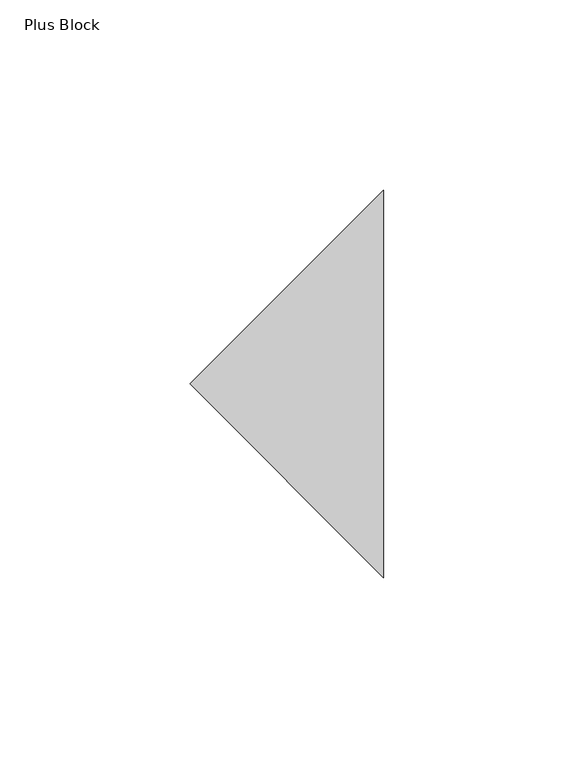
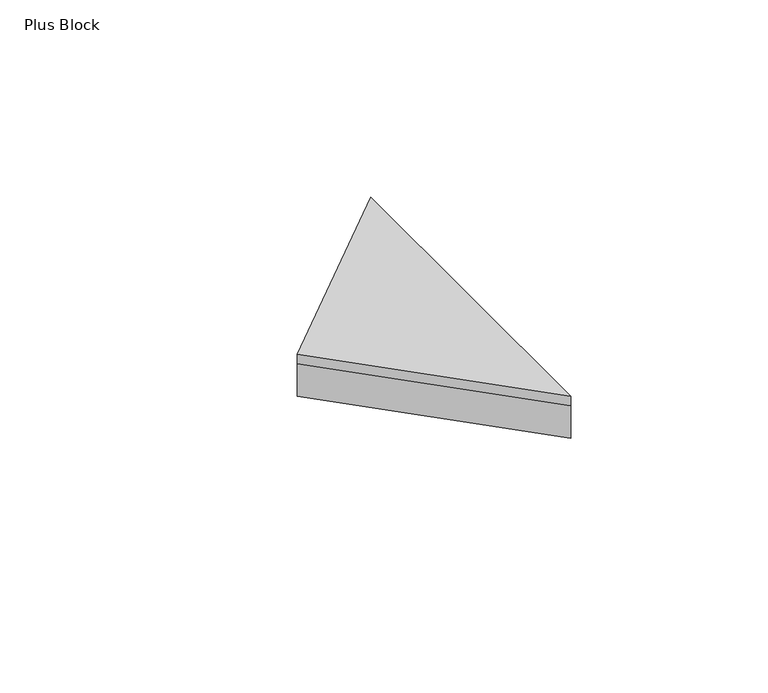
"""IFC4 building model written with IfcOpenShell, lengths in millimetres: proxy geometry, FilzFelt_Plus_Block : Plus Block."""

from ifc_helpers import new_model, si_unit, frame, origin, origin_with_axes, place, context, project, spatial, polyline, outline, extrude, source, transform, mapped, element, save


def plus_block_bc82657c(model_context):
    return source(origin(), model_context, "Body", "SweptSolid", [
        extrude(outline(polyline([(152.5, 50.8333333), (152.5, -50.8333333), (101.6666667, 0.0), (152.5, 50.8333333)])), frame((0.0, 0.0, 10.0210937), z_axis=(0.0, 0.0, 1.0), x_axis=(1.0, 0.0, 0.0)), (0.0, 0.0, 1.0), 2.9765625),
        extrude(outline(polyline([(152.5, 50.8333333), (152.5, -50.8333333), (101.6666667, 0.0), (152.5, 50.8333333)])), origin_with_axes(), (0.0, 0.0, 1.0), 10.0210938),
    ])


if __name__ == "__main__":
    model = new_model("IFC4")
    model_context = context("Model", 3, world=origin())
    ifc_project = project(units=[si_unit("LENGTHUNIT", "METRE", prefix="MILLI")], contexts=[model_context])
    site = spatial("IfcSite", under=ifc_project)
    building = spatial("IfcBuilding", under=site)
    placement = place(None, origin())
    plus_block_shape = plus_block_bc82657c(model_context)
    element("IfcBuildingElementProxy", 1, Name="FilzFelt_Plus_Block : Plus Block", ObjectType="FilzFelt_Plus_Block : Plus Block", at=placement, inside=building, context=model_context, shape_type="MappedRepresentation", body=[
        mapped(plus_block_shape, transform((0.0, 0.0, 0.0), x_axis=(1.0, 0.0, 0.0), y_axis=(0.0, 1.0, 0.0), z_axis=(0.0, 0.0, 1.0))),
    ])
    save(model, "model.ifc")
